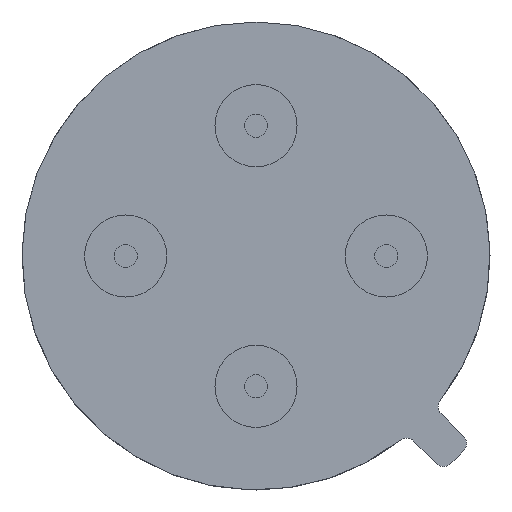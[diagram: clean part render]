
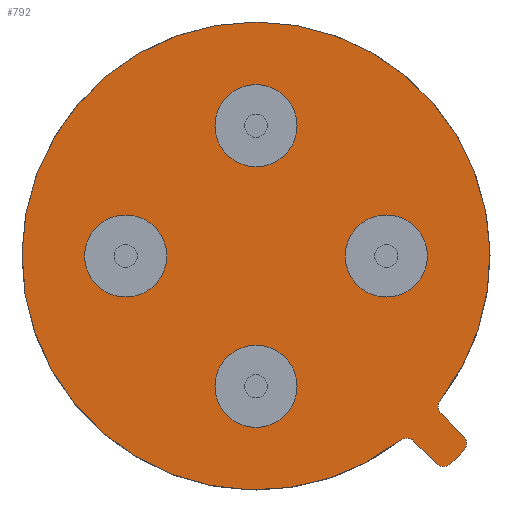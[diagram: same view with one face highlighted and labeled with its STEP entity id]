
A CAD part, front view. The second image highlights one B-rep face of the part: STEP entity #792.
In plain terms, the highlighted planar face has unit normal (0, -1, 0).
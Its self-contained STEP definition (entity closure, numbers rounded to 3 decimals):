
#755=VERTEX_POINT('NONE',#756);
#756=CARTESIAN_POINT('',(2.811,0.0,-3.59));
#762=EDGE_CURVE('NONE',#755,#763,#765,.T.);
#763=VERTEX_POINT('',#764);
#764=CARTESIAN_POINT('',(0.,0.0,4.56));
#765=CIRCLE('',#766,4.56);
#766=AXIS2_PLACEMENT_3D('',#767,#768,#769);
#767=CARTESIAN_POINT('',(0.0,0.0,0.0));
#768=DIRECTION('',(0.0,1.0,0.0));
#769=DIRECTION('',(0.0,0.0,1.0));
#778=EDGE_CURVE('NONE',#763,#779,#765,.T.);
#779=VERTEX_POINT('NONE',#780);
#780=CARTESIAN_POINT('',(3.59,0.0,-2.811));
#792=ADVANCED_FACE('NONE',(#793,#804,#815,#826,#837),#899,.T.);
#793=FACE_BOUND('NONE',#794,.T.);
#794=EDGE_LOOP('',(#795));
#795=ORIENTED_EDGE('',*,*,#796,.T.);
#796=EDGE_CURVE('NONE',#797,#797,#799,.F.);
#797=VERTEX_POINT('NONE',#798);
#798=CARTESIAN_POINT('',(0.0,0.0,1.74));
#799=CIRCLE('',#800,0.8);
#800=AXIS2_PLACEMENT_3D('',#801,#802,#803);
#801=CARTESIAN_POINT('',(0.0,0.0,2.54));
#802=DIRECTION('',(0.0,-1.0,0.0));
#803=DIRECTION('',(0.0,0.0,-1.0));
#804=FACE_BOUND('NONE',#805,.T.);
#805=EDGE_LOOP('',(#806));
#806=ORIENTED_EDGE('',*,*,#807,.T.);
#807=EDGE_CURVE('NONE',#808,#808,#810,.F.);
#808=VERTEX_POINT('NONE',#809);
#809=CARTESIAN_POINT('',(2.54,0.0,-0.8));
#810=CIRCLE('',#811,0.8);
#811=AXIS2_PLACEMENT_3D('',#812,#813,#814);
#812=CARTESIAN_POINT('',(2.54,0.0,0.));
#813=DIRECTION('',(0.0,-1.0,0.0));
#814=DIRECTION('',(0.0,0.0,-1.0));
#815=FACE_BOUND('NONE',#816,.T.);
#816=EDGE_LOOP('',(#817));
#817=ORIENTED_EDGE('',*,*,#818,.T.);
#818=EDGE_CURVE('NONE',#819,#819,#821,.F.);
#819=VERTEX_POINT('NONE',#820);
#820=CARTESIAN_POINT('',(0.,0.0,-3.34));
#821=CIRCLE('',#822,0.8);
#822=AXIS2_PLACEMENT_3D('',#823,#824,#825);
#823=CARTESIAN_POINT('',(0.,0.0,-2.54));
#824=DIRECTION('',(0.0,-1.0,0.0));
#825=DIRECTION('',(0.0,0.0,-1.0));
#826=FACE_BOUND('NONE',#827,.T.);
#827=EDGE_LOOP('',(#828));
#828=ORIENTED_EDGE('',*,*,#829,.T.);
#829=EDGE_CURVE('NONE',#830,#830,#832,.F.);
#830=VERTEX_POINT('NONE',#831);
#831=CARTESIAN_POINT('',(-2.54,0.0,-0.8));
#832=CIRCLE('',#833,0.8);
#833=AXIS2_PLACEMENT_3D('',#834,#835,#836);
#834=CARTESIAN_POINT('',(-2.54,0.0,0.));
#835=DIRECTION('',(0.0,-1.0,0.0));
#836=DIRECTION('',(0.0,0.0,-1.0));
#837=FACE_BOUND('',#838,.T.);
#838=EDGE_LOOP('',(#839,#849,#858,#866,#875,#883,#890,#891,#892));
#839=ORIENTED_EDGE('',*,*,#840,.T.);
#840=EDGE_CURVE('NONE',#841,#843,#845,.T.);
#841=VERTEX_POINT('NONE',#842);
#842=CARTESIAN_POINT('',(3.076,0.0,-3.606));
#843=VERTEX_POINT('NONE',#844);
#844=CARTESIAN_POINT('',(3.514,0.0,-4.044));
#845=LINE('',#846,#847);
#846=CARTESIAN_POINT('',(2.948,0.0,-3.479));
#847=VECTOR('',#848,1.0);
#848=DIRECTION('',(0.707,0.0,-0.707));
#849=ORIENTED_EDGE('',*,*,#850,.T.);
#850=EDGE_CURVE('NONE',#843,#851,#853,.T.);
#851=VERTEX_POINT('NONE',#852);
#852=CARTESIAN_POINT('',(3.797,0.0,-4.044));
#853=CIRCLE('',#854,0.2);
#854=AXIS2_PLACEMENT_3D('',#855,#856,#857);
#855=CARTESIAN_POINT('',(3.655,0.0,-3.903));
#856=DIRECTION('',(0.0,-1.0,0.0));
#857=DIRECTION('',(0.0,0.0,-1.0));
#858=ORIENTED_EDGE('',*,*,#859,.T.);
#859=EDGE_CURVE('NONE',#851,#860,#862,.T.);
#860=VERTEX_POINT('NONE',#861);
#861=CARTESIAN_POINT('',(4.044,0.0,-3.797));
#862=LINE('',#863,#864);
#863=CARTESIAN_POINT('',(3.655,0.0,-4.186));
#864=VECTOR('',#865,1.0);
#865=DIRECTION('',(0.707,0.0,0.707));
#866=ORIENTED_EDGE('',*,*,#867,.T.);
#867=EDGE_CURVE('NONE',#860,#868,#870,.T.);
#868=VERTEX_POINT('NONE',#869);
#869=CARTESIAN_POINT('',(4.044,0.0,-3.514));
#870=CIRCLE('',#871,0.2);
#871=AXIS2_PLACEMENT_3D('',#872,#873,#874);
#872=CARTESIAN_POINT('',(3.903,0.0,-3.655));
#873=DIRECTION('',(0.0,-1.0,0.0));
#874=DIRECTION('',(0.0,0.0,-1.0));
#875=ORIENTED_EDGE('',*,*,#876,.T.);
#876=EDGE_CURVE('NONE',#868,#877,#879,.T.);
#877=VERTEX_POINT('NONE',#878);
#878=CARTESIAN_POINT('',(3.606,0.0,-3.076));
#879=LINE('',#880,#881);
#880=CARTESIAN_POINT('',(4.186,0.0,-3.655));
#881=VECTOR('',#882,1.0);
#882=DIRECTION('',(-0.707,0.0,0.707));
#883=ORIENTED_EDGE('',*,*,#884,.T.);
#884=EDGE_CURVE('NONE',#877,#779,#885,.T.);
#885=CIRCLE('',#886,0.2);
#886=AXIS2_PLACEMENT_3D('',#887,#888,#889);
#887=CARTESIAN_POINT('',(3.748,0.0,-2.935));
#888=DIRECTION('',(0.0,1.0,0.0));
#889=DIRECTION('',(0.0,0.0,-1.0));
#890=ORIENTED_EDGE('',*,*,#778,.F.);
#891=ORIENTED_EDGE('',*,*,#762,.F.);
#892=ORIENTED_EDGE('',*,*,#893,.T.);
#893=EDGE_CURVE('NONE',#755,#841,#894,.T.);
#894=CIRCLE('',#895,0.2);
#895=AXIS2_PLACEMENT_3D('',#896,#897,#898);
#896=CARTESIAN_POINT('',(2.935,0.0,-3.748));
#897=DIRECTION('',(0.0,1.0,0.0));
#898=DIRECTION('',(0.0,0.0,-1.0));
#899=PLANE('',#900);
#900=AXIS2_PLACEMENT_3D('',#901,#902,#903);
#901=CARTESIAN_POINT('',(0.0,0.0,0.0));
#902=DIRECTION('',(0.0,-1.0,0.0));
#903=DIRECTION('',(0.0,0.0,-1.0));
